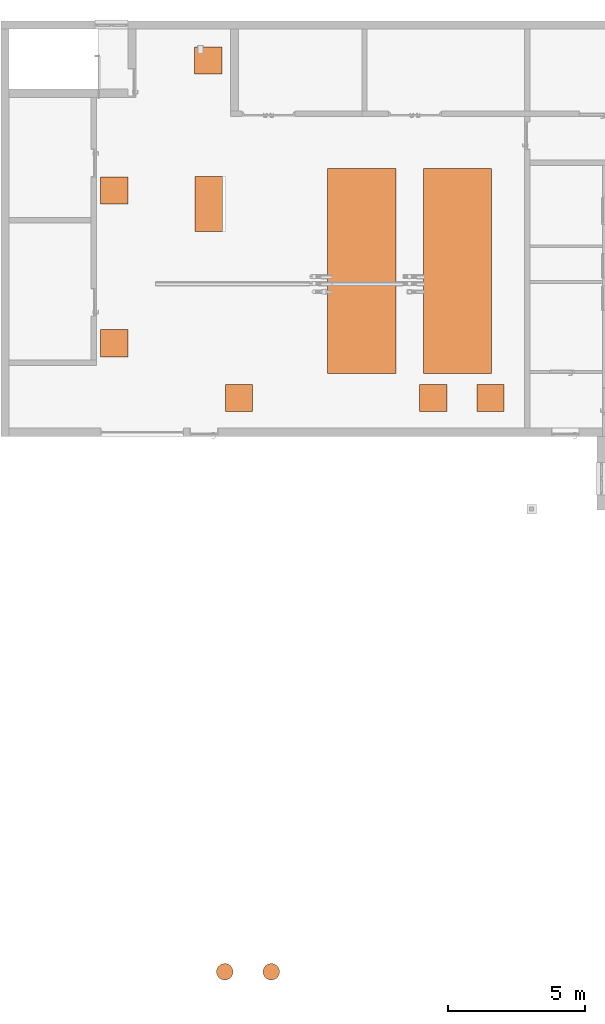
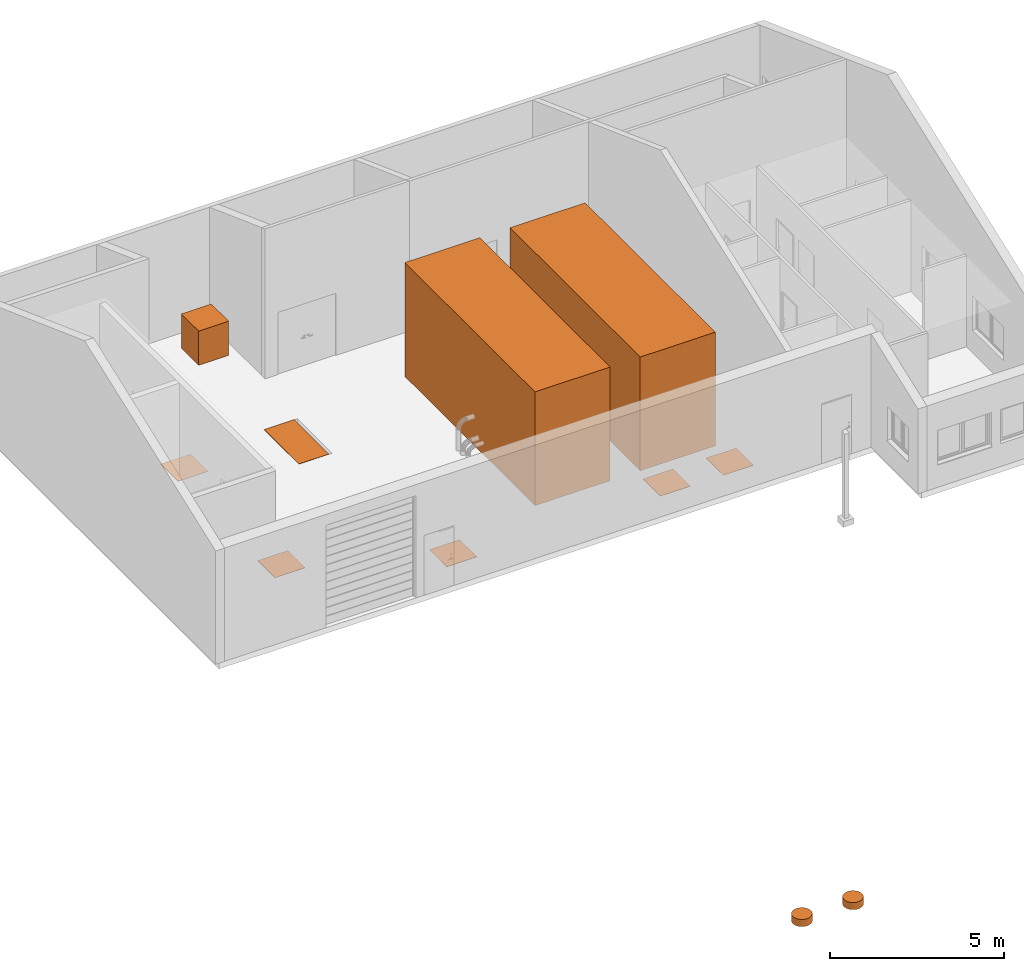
# One storey, part 23 of 23: 11 proxies.
"""IFC2X3 building model written with IfcOpenShell, lengths in millimetres."""

import ifcopenshell
import ifcopenshell.guid

model = None  # the IFC model being written
_history = None  # IfcOwnerHistory: only IFC2X3 demands one
_inside = {}  # id of a spatial element -> (the spatial element, [elements in it])
_under = {}  # id of a project, library or spatial element -> (it, [spatial elements below it])
_declared = {}  # id of a project -> (the project, [libraries it declares])
_typed = {}  # id of a type object -> (the type object, [elements of that type])
_made_of = {}  # id of a material, layer set ... -> (it, [elements and type objects made of it])


def new_model(schema):
    """Start an empty IFC model of exactly this schema.

    Asked for "IFC4X3", IfcOpenShell would pick the latest addendum, in which some entities
    have other attributes; the version numbers below select the first issue.
    IFC2X3 requires an IfcOwnerHistory on every rooted entity: one is made here for all.
    """
    global model, _history
    if schema == "IFC4X3":
        model = ifcopenshell.file(schema_version=(4, 3, 0, 0))
    else:
        model = ifcopenshell.file(schema=schema)
    _inside.clear()
    _under.clear()
    _declared.clear()
    _typed.clear()
    _made_of.clear()
    _history = None
    if model.schema == "IFC2X3":
        org = make("IfcOrganization", Name="unknown")
        user = make(
            "IfcPersonAndOrganization",
            ThePerson=make("IfcPerson", FamilyName="unknown"),
            TheOrganization=org,
        )
        app = make(
            "IfcApplication",
            ApplicationDeveloper=org,
            Version="unknown",
            ApplicationFullName="unknown",
            ApplicationIdentifier="unknown",
        )
        _history = make(
            "IfcOwnerHistory",
            OwningUser=user,
            OwningApplication=app,
            ChangeAction="ADDED",
            CreationDate=0,
        )
    return model


def make(cls, **values):
    """One entity of the class cls with the attributes given. An attribute that is None is left unset."""
    return model.create_entity(
        cls, **{name: value for name, value in values.items() if value is not None}
    )


def entity(cls, *values):
    """Any entity or typed value of the class cls, its attributes in the order of the schema. None: left unset."""
    e = model.create_entity(cls)
    for i, value in enumerate(values):
        if value is not None:
            e[i] = value
    return e


def rooted(cls, **values):
    """An entity with a GlobalId (a new one), such as an element, a storey or a relation."""
    return make(cls, GlobalId=ifcopenshell.guid.new(), OwnerHistory=_history, **values)


def si_unit(unit_type, name, prefix=None):
    """IfcSIUnit, for example si_unit("LENGTHUNIT", "METRE", prefix="MILLI")."""
    return make("IfcSIUnit", UnitType=unit_type, Prefix=prefix, Name=name)


def converted_unit(unit_type, name, factor, base, dimensions=None, offset=None):
    """IfcConversionBasedUnit, such as the inch: factor (a typed value) times the base unit."""
    return make(
        "IfcConversionBasedUnit"
        if offset is None
        else "IfcConversionBasedUnitWithOffset",
        ConversionOffset=offset,
        Dimensions=None
        if dimensions is None
        else entity("IfcDimensionalExponents", *dimensions),
        UnitType=unit_type,
        Name=name,
        ConversionFactor=make(
            "IfcMeasureWithUnit", ValueComponent=factor, UnitComponent=base
        ),
    )


def assignment(units):
    """IfcUnitAssignment: the units of a project."""
    return None if units is None else make("IfcUnitAssignment", Units=units)


def point(xyz):
    """IfcCartesianPoint."""
    return None if xyz is None else make("IfcCartesianPoint", Coordinates=xyz)


def direction(xyz):
    """IfcDirection."""
    return None if xyz is None else make("IfcDirection", DirectionRatios=xyz)


def frame(location, z_axis=None, x_axis=None):
    """IfcAxis2Placement3D, a coordinate frame: its origin and axes. An axis left out is left unset."""
    return make(
        "IfcAxis2Placement3D",
        Location=point(location),
        Axis=direction(z_axis),
        RefDirection=direction(x_axis),
    )


def frame_2d(location, x_axis=None):
    """IfcAxis2Placement2D, a coordinate frame in the plane: its origin and x axis."""
    return make(
        "IfcAxis2Placement2D", Location=point(location), RefDirection=direction(x_axis)
    )


def origin():
    """The frame at (0, 0, 0) with its axes left unset."""
    return frame((0.0, 0.0, 0.0))


def origin_2d_with_axis():
    """The frame at (0, 0) in the plane with the x axis (1, 0) written out."""
    return frame_2d((0.0, 0.0), x_axis=(1.0, 0.0))


def place(relative_to, where):
    """IfcLocalPlacement: puts the frame where relative to a parent placement (None: the world)."""
    return make(
        "IfcLocalPlacement", PlacementRelTo=relative_to, RelativePlacement=where
    )


def context(
    kind, dimensions, precision=None, world=None, true_north=None, identifier=None
):
    """IfcGeometricRepresentationContext, for example the 3D "Model" context."""
    return make(
        "IfcGeometricRepresentationContext",
        ContextIdentifier=identifier,
        ContextType=kind,
        CoordinateSpaceDimension=dimensions,
        Precision=precision,
        WorldCoordinateSystem=world,
        TrueNorth=true_north,
    )


def subcontext(parent, identifier, kind, view, scale=None):
    """IfcGeometricRepresentationSubContext, for example "Body" below "Model"."""
    return make(
        "IfcGeometricRepresentationSubContext",
        ContextIdentifier=identifier,
        ContextType=kind,
        ParentContext=parent,
        TargetScale=scale,
        TargetView=view,
    )


def project(units=None, contexts=None):
    """IfcProject with its units and contexts."""
    return rooted(
        "IfcProject",
        Name="project",
        RepresentationContexts=contexts,
        UnitsInContext=assignment(units),
    )


def spatial(cls, under=None, at=None, **own):
    """A site, building, storey or space (cls), placed at a placement, below another one or the project."""
    s = rooted(cls, ObjectPlacement=at, **own)
    if under is not None:
        _under.setdefault(under.id(), (under, []))[1].append(s)
    return s


def profile(cls, at=None, kind="AREA", **sizes):
    """A parametric profile (cls). Its sizes go by their IFC names, for example OverallWidth=200.0."""
    return make(cls, ProfileType=kind, Position=at, **sizes)


def rectangle(**sizes):
    """IfcRectangleProfileDef."""
    return profile("IfcRectangleProfileDef", **sizes)


def circle(**sizes):
    """IfcCircleProfileDef."""
    return profile("IfcCircleProfileDef", **sizes)


def extrude(swept, where, along, depth):
    """IfcExtrudedAreaSolid: the profile swept, set in the frame where, extruded along a direction by depth."""
    return make(
        "IfcExtrudedAreaSolid",
        SweptArea=swept,
        Position=where,
        ExtrudedDirection=direction(along),
        Depth=depth,
    )


def shape(context_of_items, identifier, shape_type, items):
    """IfcShapeRepresentation: the items that make up one representation, for example the "Body"."""
    return make(
        "IfcShapeRepresentation",
        ContextOfItems=context_of_items,
        RepresentationIdentifier=identifier,
        RepresentationType=shape_type,
        Items=items,
    )


def source(mapping_origin, context_of_items, identifier, shape_type, items):
    """IfcRepresentationMap: a shape defined once, which mapped items show again and again."""
    return make(
        "IfcRepresentationMap",
        MappingOrigin=mapping_origin,
        MappedRepresentation=shape(context_of_items, identifier, shape_type, items),
    )


def transform(
    local_origin,
    x_axis=None,
    y_axis=None,
    z_axis=None,
    scale=None,
    scale2=None,
    scale3=None,
    uniform=True,
):
    """IfcCartesianTransformationOperator3D, or its non-uniform kind. x_axis, y_axis, z_axis: its Axis1, 2, 3."""
    if uniform:
        return make(
            "IfcCartesianTransformationOperator3D",
            Axis1=direction(x_axis),
            Axis2=direction(y_axis),
            LocalOrigin=point(local_origin),
            Scale=scale,
            Axis3=direction(z_axis),
        )
    return make(
        "IfcCartesianTransformationOperator3DnonUniform",
        Axis1=direction(x_axis),
        Axis2=direction(y_axis),
        LocalOrigin=point(local_origin),
        Scale=scale,
        Axis3=direction(z_axis),
        Scale2=scale2,
        Scale3=scale3,
    )


def mapped(mapping_source, mapping_target):
    """IfcMappedItem: shows the shape of a source again, moved by a transform."""
    return make(
        "IfcMappedItem", MappingSource=mapping_source, MappingTarget=mapping_target
    )


def material(Name=None, Category=None):
    """IfcMaterial."""
    return make("IfcMaterial", Name=Name, Category=Category)


def made_of(thing, what):
    """Note that an element or type object is made of a material, layer set ...; save() writes the relation."""
    if what is not None:
        _made_of.setdefault(what.id(), (what, []))[1].append(thing)
    return thing


def type_object(cls, material=None, **own):
    """A type object (cls), such as IfcWallType, which elements share."""
    return made_of(rooted(cls, **own), material)


def type_shapes(of_type, sources):
    """Give a type object the sources (RepresentationMaps) that its elements show as mapped items."""
    of_type.RepresentationMaps = sources


def element(
    cls,
    number,
    at=None,
    inside=None,
    cuts=None,
    type_object=None,
    material=None,
    context=None,
    identifier="Body",
    shape_type=None,
    held_by="IfcProductDefinitionShape",
    body=None,
    shapes=None,
    **own,
):
    """One element of the class cls, such as IfcWall. Its Tag is "e" and its number.

    at: its placement. inside: the storey or other place that contains it. cuts: it is an
    opening in that element (IfcRelVoidsElement). A single representation is given by context,
    identifier, shape_type and body (its items); several are given by shapes. held_by: the class
    of the entity that holds the representations. save() writes the other relations.
    """
    e = rooted(cls, Tag="e%d" % number, ObjectPlacement=at, **own)
    if body is not None:
        shapes = [shape(context, identifier, shape_type, body)]
    if shapes is not None:
        e.Representation = make(held_by, Representations=shapes)
    if inside is not None:
        _inside.setdefault(inside.id(), (inside, []))[1].append(e)
    if cuts is not None:
        rooted(
            "IfcRelVoidsElement", RelatingBuildingElement=cuts, RelatedOpeningElement=e
        )
    if type_object is not None:
        _typed.setdefault(type_object.id(), (type_object, []))[1].append(e)
    return made_of(e, material)


def aggregate(whole, parts):
    """IfcRelAggregates: a whole, such as a stair, and the parts it consists of."""
    return rooted("IfcRelAggregates", RelatingObject=whole, RelatedObjects=parts)


def save(model, path):
    """Write the relations noted so far, then the file.

    IfcRelAggregates (storeys below a building ...), IfcRelContainedInSpatialStructure (elements
    in a storey), IfcRelDefinesByType, IfcRelAssociatesMaterial and IfcRelDeclares: one each for
    every whole, place, type object, material and project.
    """
    for whole, parts in _under.values():
        aggregate(whole, parts)
    for where, things in _inside.values():
        rooted(
            "IfcRelContainedInSpatialStructure",
            RelatedElements=things,
            RelatingStructure=where,
        )
    for kind, things in _typed.values():
        rooted("IfcRelDefinesByType", RelatedObjects=things, RelatingType=kind)
    for what, things in _made_of.values():
        rooted("IfcRelAssociatesMaterial", RelatedObjects=things, RelatingMaterial=what)
    for by, libraries in _declared.values():
        rooted("IfcRelDeclares", RelatingContext=by, RelatedDefinitions=libraries)
    model.write(path)


model = new_model("IFC2X3")

# Units and contexts
model_context = context("Model", 3, precision=0.01, world=origin(), true_north=direction((6.123031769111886e-17, 1.0)))
body_context = subcontext(model_context, "Body", "Model", "MODEL_VIEW")
ifc_project = project(units=[si_unit("LENGTHUNIT", "METRE", prefix="MILLI"), converted_unit("PLANEANGLEUNIT", "DEGREE", entity("IfcPlaneAngleMeasure", 0.017453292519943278), si_unit("PLANEANGLEUNIT", "RADIAN"), dimensions=[0, 0, 0, 0, 0, 0, 0]), si_unit("AREAUNIT", "SQUARE_METRE")], contexts=[model_context])

# Site, building, storey
site_placement = place(None, frame((7776.576483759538, 118.3519876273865, 0.0)))
site = spatial("IfcSite", under=ifc_project, at=site_placement, Name="Default", CompositionType="ELEMENT")
building_placement = place(site_placement, origin())
building = spatial("IfcBuilding", under=site, at=building_placement, Name="Bygning (endres i Project Information)", CompositionType="ELEMENT")
storey_placement = place(building_placement, frame((0.0, 0.0, 19000.0)))
storey = spatial("IfcBuildingStorey", under=building, at=storey_placement, Name="Plan 01", CompositionType="ELEMENT", Elevation=19000.0)

# Proxies
ifc_material_1 = material(Name="<Unnamed>")
building_element_proxy_type_1 = type_object("IfcBuildingElementProxyType", Name="RNO_CoordinationColumns:RNO_Nullpunktssøyle", PredefinedType="NOTDEFINED", material=ifc_material_1)
shared_shape_1 = source(origin(), body_context, "Body", "SweptSolid", [
    extrude(circle(Radius=299.99999999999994, at=frame_2d((-1.545615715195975e-14, -4.846633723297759e-13), x_axis=(1.0, 0.0))), origin(), (0.0, 0.0, 1.0), 249.99999999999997),
])
type_shapes(building_element_proxy_type_1, [shared_shape_1])
proxy_1_placement = place(storey_placement, frame((22763.072210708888, -190.19864332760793, 0.0)))
element("IfcBuildingElementProxy", 1, at=proxy_1_placement, inside=storey, type_object=building_element_proxy_type_1, material=ifc_material_1, Name="RNO_CoordinationColumns:RNO_Nullpunktssøyle", ObjectType="RNO_CoordinationColumns:RNO_Nullpunktssøyle", context=body_context, shape_type="MappedRepresentation", body=[
    mapped(shared_shape_1, transform((0.0, 0.0, 0.0), scale=1.0)),
])
building_element_proxy_type_2 = type_object("IfcBuildingElementProxyType", Name="RNO_CoordinationColumns:RNO_Rotasjonssøyle", PredefinedType="NOTDEFINED", material=ifc_material_1)
shared_shape_2 = source(origin(), body_context, "Body", "SweptSolid", [
    extrude(circle(Radius=299.99999999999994, at=frame_2d((-1.545615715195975e-14, -4.846633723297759e-13), x_axis=(1.0, 0.0))), origin(), (0.0, 0.0, 1.0), 249.99999999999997),
])
type_shapes(building_element_proxy_type_2, [shared_shape_2])
proxy_2_placement = place(storey_placement, frame((21063.072210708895, -190.19864332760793, 0.0)))
element("IfcBuildingElementProxy", 2, at=proxy_2_placement, inside=storey, type_object=building_element_proxy_type_2, material=ifc_material_1, Name="RNO_CoordinationColumns:RNO_Rotasjonssøyle", ObjectType="RNO_CoordinationColumns:RNO_Rotasjonssøyle", context=body_context, shape_type="MappedRepresentation", body=[
    mapped(shared_shape_2, transform((0.0, 0.0, 0.0), scale=1.0)),
])
building_element_proxy_type_3 = type_object("IfcBuildingElementProxyType", Name="Membranrigg7:Membranrigg", PredefinedType="NOTDEFINED", material=ifc_material_1)
shared_shape_3 = source(origin(), body_context, "Body", "SweptSolid", [
    extrude(rectangle(XDim=2499.9999999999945, YDim=7500.000000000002, at=frame_2d((249.9999999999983, -569.9999999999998), x_axis=(1.0, 0.0))), frame((25824.00137486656, 26017.757305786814, 19000.0)), (0.0, 0.0, 1.0), 4000.0000000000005),
])
type_shapes(building_element_proxy_type_3, [shared_shape_3])
proxy_3_placement = place(storey_placement, frame((0.0, 0.0, -19000.0)))
element("IfcBuildingElementProxy", 3, at=proxy_3_placement, inside=storey, type_object=building_element_proxy_type_3, material=ifc_material_1, Name="Membranrigg7:Membranrigg", ObjectType="Membranrigg7:Membranrigg", context=body_context, shape_type="MappedRepresentation", body=[
    mapped(shared_shape_3, transform((0.0, 0.0, 0.0), scale=1.0)),
])
building_element_proxy_type_4 = type_object("IfcBuildingElementProxyType", Name="Membranrigg8:Membranrigg", PredefinedType="NOTDEFINED", material=ifc_material_1)
shared_shape_4 = source(origin(), body_context, "Body", "SweptSolid", [
    extrude(rectangle(XDim=2500.0, YDim=7500.000000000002, at=frame_2d((250.0000000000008, -569.9999999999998), x_axis=(1.0, 0.0))), frame((-4645.083595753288, 15335.545026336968, 19000.0)), (0.0, 0.0, 1.0), 4000.0000000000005),
])
type_shapes(building_element_proxy_type_4, [shared_shape_4])
proxy_4_placement = place(storey_placement, frame((33969.08497061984, 10682.212279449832, -19000.0)))
element("IfcBuildingElementProxy", 4, at=proxy_4_placement, inside=storey, type_object=building_element_proxy_type_4, material=ifc_material_1, Name="Membranrigg8:Membranrigg", ObjectType="Membranrigg8:Membranrigg", context=body_context, shape_type="MappedRepresentation", body=[
    mapped(shared_shape_4, transform((0.0, 0.0, 0.0), scale=1.0)),
])
ifc_material_2 = material(Name="Default luke")
building_element_proxy_type_5 = type_object("IfcBuildingElementProxyType", Name="Placeholder Luke:100x100cm", PredefinedType="NOTDEFINED", material=ifc_material_2)
shared_shape_5 = source(origin(), body_context, "Body", "SweptSolid", [
    extrude(rectangle(XDim=1000.0000000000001, YDim=1000.0000000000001, at=origin_2d_with_axis()), frame((500.0, 500.0, 0.0), z_axis=(0.0, 0.0, 1.0), x_axis=(0.0, 1.0, 0.0)), (0.0, 0.0, 1.0), 10.0),
])
type_shapes(building_element_proxy_type_5, [shared_shape_5])
for number, where, name in (
    (5, (30284.001374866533, 20297.757305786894, 0.0), "Placeholder Luke:100x100cm"),
    (6, (28184.00137486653, 20297.757305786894, 0.0), "Placeholder Luke:100x100cm"),
    (7, (16524.001374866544, 22297.7573057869, 0.0), "Placeholder Luke:100x100cm"),
    (8, (16524.00137486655, 27887.757305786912, 0.0), "Placeholder Luke:100x100cm"),
    (9, (21084.001374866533, 20297.757305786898, 0.0), "Placeholder Luke:100x100cm"),
):
    element("IfcBuildingElementProxy", number, at=place(storey_placement, frame(where)), inside=storey, type_object=building_element_proxy_type_5, material=ifc_material_2, Name=name, ObjectType="Placeholder Luke:100x100cm", context=body_context, shape_type="MappedRepresentation", body=[
        mapped(shared_shape_5, transform((0.0, 0.0, 0.0), scale=1.0)),
    ])
building_element_proxy_type_6 = type_object("IfcBuildingElementProxyType", Name="Placeholder Luke:200x100cm 2", PredefinedType="NOTDEFINED", material=ifc_material_2)
shared_shape_6 = source(origin(), body_context, "Body", "SweptSolid", [
    extrude(rectangle(XDim=1000.0000000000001, YDim=2000.0000000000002, at=origin_2d_with_axis()), frame((1000.0, 500.0, 0.0), z_axis=(0.0, 0.0, 1.0), x_axis=(0.0, 1.0, 0.0)), (0.0, 0.0, 1.0), 10.0),
])
type_shapes(building_element_proxy_type_6, [shared_shape_6])
proxy_5_placement = place(storey_placement, frame((20974.001374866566, 26897.7573057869, 0.0), z_axis=(0.0, 0.0, 1.0), x_axis=(0.0, 1.0, 0.0)))
element("IfcBuildingElementProxy", 10, at=proxy_5_placement, inside=storey, type_object=building_element_proxy_type_6, material=ifc_material_2, Name="Placeholder Luke:200x100cm 2", ObjectType="Placeholder Luke:200x100cm 2", context=body_context, shape_type="MappedRepresentation", body=[
    mapped(shared_shape_6, transform((0.0, 0.0, 0.0), scale=1.0)),
])
building_element_proxy_type_7 = type_object("IfcBuildingElementProxyType", Name="Blåsemaskin:Blåsemaskin", PredefinedType="NOTDEFINED", material=ifc_material_1)
shared_shape_7 = source(origin(), body_context, "Body", "SweptSolid", [
    extrude(rectangle(XDim=1000.0000000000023, YDim=999.999999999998, at=origin_2d_with_axis()), frame((30700.814286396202, 29786.919756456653, 19000.0), z_axis=(0.0, 0.0, 1.0), x_axis=(0.0, 1.0, 0.0)), (0.0, 0.0, 1.0), 1200.0),
])
type_shapes(building_element_proxy_type_7, [shared_shape_7])
proxy_6_placement = place(storey_placement, frame((-10239.81716940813, 3359.5177548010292, -19000.0)))
element("IfcBuildingElementProxy", 11, at=proxy_6_placement, inside=storey, type_object=building_element_proxy_type_7, material=ifc_material_1, Name="Blåsemaskin:Blåsemaskin", ObjectType="Blåsemaskin:Blåsemaskin", context=body_context, shape_type="MappedRepresentation", body=[
    mapped(shared_shape_7, transform((0.0, 0.0, 0.0), scale=1.0)),
])

save(model, "model.ifc")
